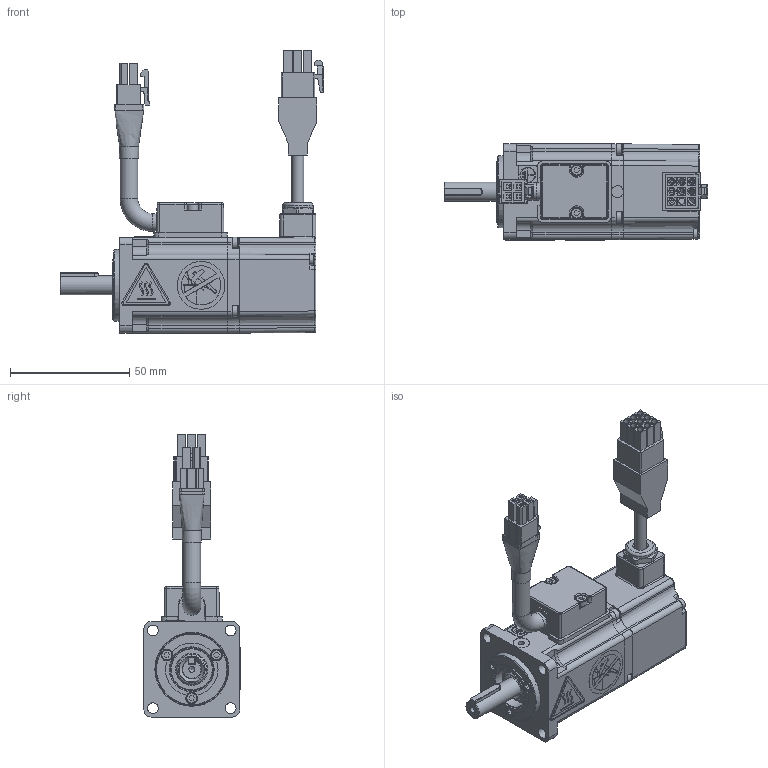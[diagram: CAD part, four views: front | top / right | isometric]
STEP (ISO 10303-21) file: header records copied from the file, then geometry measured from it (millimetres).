
FILE_DESCRIPTION(/* description */ ('AdapterTestApp'),/* implementation_level */ '2;1');
FILE_NAME(/* name */ 'TCE40 1A XX 3 A2 0 D0',/* time_stamp */ '2015-09-25T11:24:48+02:00',/* author */ ('AdapterTestApp'),/* organization */ ('Siemens PLM Software'),/* preprocessor_version */ 'ST-DEVELOPER v15.6',/* originating_system */ 'DEX',/* authorisation */ $);
FILE_SCHEMA (('AUTOMOTIVE_DESIGN {1 0 10303 214 3 1 1}'));
Products named in the file (32): TCE40 1A XX 3 A2 0 D0_vuoto; 003103001500; 005123000910; U5190001_vuoto; 003120002500; 001799000503; 005911000598; 003108015151_curva; 003303000375; 005453000452_D7,4; 007102000211; 001107000616; 003108020178_dritto; 005603001018; 003303000021; 005711000200; 005123000992; 003155000300; 005911000185; 003003050000; 003911000272; 005008000104; 005008000134; 005113000108; 005911003639; 005204000004; 005204000002; 003251022000; 005119000350; 005204000001
Assembly tree (45 placements, depth 4):
  TCE40 1A XX 3 A2 0 D0_vuoto
    003103001500
    005123000910
    U5190001_vuoto
      003120002500
      001799000503
      005911000598  x2
      003108015151_curva
        003108015151_curva
        003303000375
        005453000452_D7,4
    007102000211
      001107000616
      003108020178_dritto
        003108020178_dritto
        005603001018
        003303000021
        005711000200  x2
    005123000992
    003155000300
    005911000185  x7
    003003050000
    003911000272  x2
    005008000104  x2
    005008000134  x3
    005113000108
    005911003639  x3
    005204000004
    005204000002
    003251022000
    005119000350
    005204000001
Bounding box: 110.4 x 40.4 x 118.3 mm (x, y, z)
Volume: 68210.6 mm3; surface area: 70698.9 mm2
Topology: 47 solids, 47 shells, 1923 faces, 4850 edges, 3132 vertices
Faces by surface type: plane 1225, cylinder 394, cone 99, torus 87, bspline 61, extrusion 37, sphere 20
Full cylindrical faces by diameter (mm): 2.013 x22, 2.459 x11, 2.5 x16, 2.6 x9, 2.7 x14, 4.2 x2, 4.5 x4, 4.7 x13, 5 x7, 5.2 x1, 5.3 x2, 5.5 x1, 5.99 x1, 6 x3, 6.1 x1, 6.5 x1, 7 x2, 7.4 x2, 7.41 x1, 7.99 x1, 8 x3, 8.01 x1, 10 x2, 10.16 x2, 10.3 x2, 10.647 x1, 11 x1, 11.16 x2, 11.52 x2, 12 x1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
Entity records: 57616 total; most frequent: CARTESIAN_POINT 15628, DIRECTION 8203, ORIENTED_EDGE 8168, EDGE_CURVE 4084, VECTOR 2897, LINE 2860, VERTEX_POINT 2808, AXIS2_PLACEMENT_3D 2653
